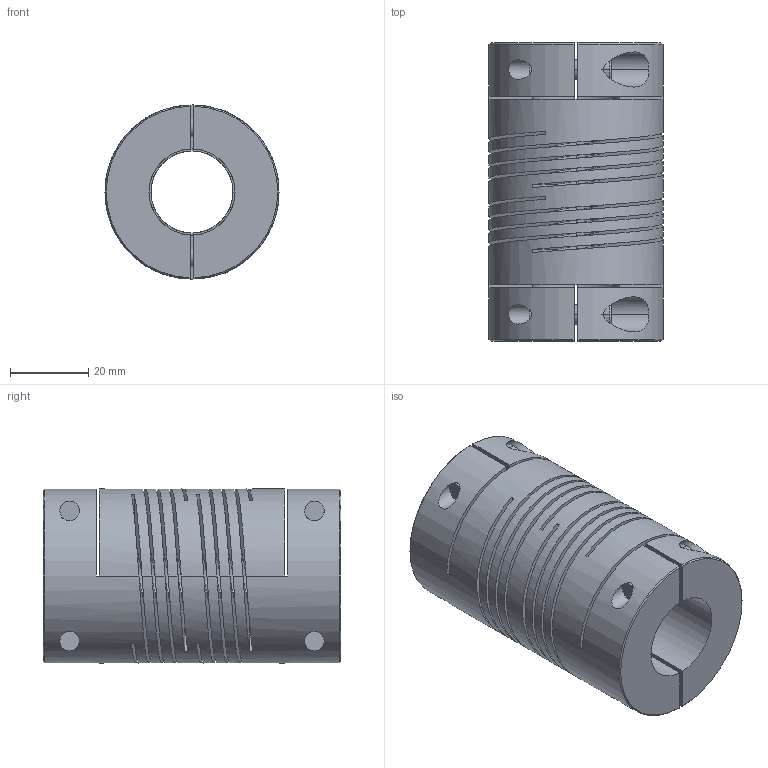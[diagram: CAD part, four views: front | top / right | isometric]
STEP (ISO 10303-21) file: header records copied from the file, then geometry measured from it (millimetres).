
FILE_DESCRIPTION((''),'2;1');
FILE_NAME('703_44','2006-12-06T',('Gary Melling'),(''),'PRO/ENGINEER BY PARAMETRIC TECHNOLOGY CORPORATION, 2006240','PRO/ENGINEER BY PARAMETRIC TECHNOLOGY CORPORATION, 2006240','');
FILE_SCHEMA(('CONFIG_CONTROL_DESIGN'));
Length unit declared in the file: millimetre
Products named in the file (1): 703_44
Bounding box: 44.5 x 76.2 x 44.5 mm (x, y, z)
Volume: 79514.2 mm3; surface area: 41728.3 mm2
Topology: 1 solids, 1 shells, 164 faces, 446 edges, 288 vertices
Faces by surface type: plane 78, cylinder 62, bspline 12, cone 12
Entity records: 7556 total; most frequent: CARTESIAN_POINT 3514, ORIENTED_EDGE 892, DIRECTION 730, EDGE_CURVE 446, VERTEX_POINT 288, AXIS2_PLACEMENT_3D 244, VECTOR 242, LINE 242
